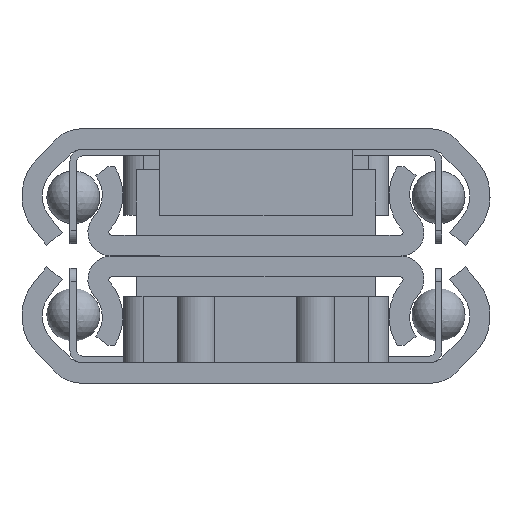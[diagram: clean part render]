
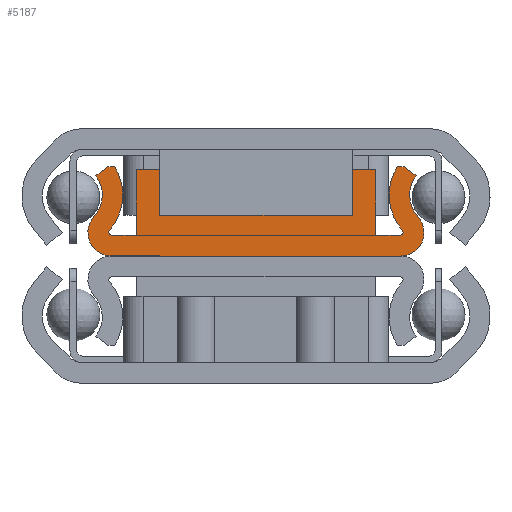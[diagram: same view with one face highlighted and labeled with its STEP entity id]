
A CAD part, left-side view. The second image highlights one B-rep face of the part: STEP entity #5187.
In plain terms, the highlighted planar face has unit normal (-1, 0, 0) as drawn and (0, 0, 1) by its records, which use the part's own axes.
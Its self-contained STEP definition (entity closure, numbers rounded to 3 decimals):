
#282=PLANE('',#5709);
#709=LINE('',#8580,#1189);
#718=LINE('',#8599,#1198);
#720=LINE('',#8603,#1200);
#722=LINE('',#8607,#1202);
#724=LINE('',#8611,#1204);
#726=LINE('',#8615,#1206);
#728=LINE('',#8618,#1208);
#729=LINE('',#8622,#1209);
#744=LINE('',#8678,#1224);
#747=LINE('',#8684,#1227);
#751=LINE('',#8700,#1231);
#754=LINE('',#8704,#1234);
#758=LINE('',#8721,#1238);
#761=LINE('',#8727,#1241);
#1189=VECTOR('',#7073,4.948);
#1198=VECTOR('',#7086,4.948);
#1200=VECTOR('',#7090,4.25);
#1202=VECTOR('',#7094,2.136);
#1204=VECTOR('',#7098,8.);
#1206=VECTOR('',#7102,2.136);
#1208=VECTOR('',#7106,4.25);
#1209=VECTOR('',#7109,21.757);
#1224=VECTOR('',#7166,1.129);
#1227=VECTOR('',#7171,0.515);
#1231=VECTOR('',#7189,1.869);
#1234=VECTOR('',#7192,1.869);
#1238=VECTOR('',#7210,0.515);
#1241=VECTOR('',#7215,1.129);
#1614=FACE_OUTER_BOUND('',#1992,.T.);
#1992=EDGE_LOOP('',(#4812,#4813,#4814,#4815,#4816,#4817,#4818,#4819,#4820,
#4821,#4822,#4823,#4824,#4825,#4826,#4827,#4828,#4829,#4830,#4831,#4832,
#4833));
#2209=CIRCLE('',#5682,1.772);
#2211=CIRCLE('',#5685,2.424);
#2213=CIRCLE('',#5690,3.976);
#2215=CIRCLE('',#5693,0.224);
#2217=CIRCLE('',#5697,0.224);
#2219=CIRCLE('',#5700,3.976);
#2221=CIRCLE('',#5705,2.424);
#2223=CIRCLE('',#5708,1.772);
#2663=VERTEX_POINT('',#8574);
#2665=VERTEX_POINT('',#8578);
#2672=VERTEX_POINT('',#8596);
#2673=VERTEX_POINT('',#8598);
#2674=VERTEX_POINT('',#8602);
#2675=VERTEX_POINT('',#8606);
#2676=VERTEX_POINT('',#8610);
#2677=VERTEX_POINT('',#8614);
#2678=VERTEX_POINT('',#8620);
#2679=VERTEX_POINT('',#8621);
#2695=VERTEX_POINT('',#8665);
#2697=VERTEX_POINT('',#8671);
#2699=VERTEX_POINT('',#8677);
#2701=VERTEX_POINT('',#8683);
#2703=VERTEX_POINT('',#8689);
#2705=VERTEX_POINT('',#8695);
#2706=VERTEX_POINT('',#8699);
#2709=VERTEX_POINT('',#8708);
#2711=VERTEX_POINT('',#8714);
#2713=VERTEX_POINT('',#8720);
#2715=VERTEX_POINT('',#8726);
#2717=VERTEX_POINT('',#8732);
#3349=EDGE_CURVE('',#2663,#2665,#709,.T.);
#3358=EDGE_CURVE('',#2673,#2672,#718,.T.);
#3360=EDGE_CURVE('',#2665,#2674,#720,.T.);
#3362=EDGE_CURVE('',#2674,#2675,#722,.T.);
#3364=EDGE_CURVE('',#2675,#2676,#724,.T.);
#3366=EDGE_CURVE('',#2676,#2677,#726,.T.);
#3368=EDGE_CURVE('',#2677,#2673,#728,.T.);
#3369=EDGE_CURVE('',#2678,#2679,#729,.T.);
#3390=EDGE_CURVE('',#2695,#2678,#2209,.T.);
#3393=EDGE_CURVE('',#2697,#2695,#2211,.T.);
#3396=EDGE_CURVE('',#2699,#2697,#744,.T.);
#3399=EDGE_CURVE('',#2701,#2699,#747,.T.);
#3402=EDGE_CURVE('',#2703,#2701,#2213,.T.);
#3405=EDGE_CURVE('',#2705,#2703,#2215,.T.);
#3407=EDGE_CURVE('',#2706,#2663,#751,.T.);
#3410=EDGE_CURVE('',#2672,#2705,#754,.T.);
#3412=EDGE_CURVE('',#2709,#2706,#2217,.T.);
#3415=EDGE_CURVE('',#2711,#2709,#2219,.T.);
#3418=EDGE_CURVE('',#2713,#2711,#758,.T.);
#3421=EDGE_CURVE('',#2715,#2713,#761,.T.);
#3424=EDGE_CURVE('',#2717,#2715,#2221,.T.);
#3427=EDGE_CURVE('',#2679,#2717,#2223,.T.);
#4812=ORIENTED_EDGE('',*,*,#3369,.T.);
#4813=ORIENTED_EDGE('',*,*,#3427,.T.);
#4814=ORIENTED_EDGE('',*,*,#3424,.T.);
#4815=ORIENTED_EDGE('',*,*,#3421,.T.);
#4816=ORIENTED_EDGE('',*,*,#3418,.T.);
#4817=ORIENTED_EDGE('',*,*,#3415,.T.);
#4818=ORIENTED_EDGE('',*,*,#3412,.T.);
#4819=ORIENTED_EDGE('',*,*,#3407,.T.);
#4820=ORIENTED_EDGE('',*,*,#3349,.T.);
#4821=ORIENTED_EDGE('',*,*,#3360,.T.);
#4822=ORIENTED_EDGE('',*,*,#3362,.T.);
#4823=ORIENTED_EDGE('',*,*,#3364,.T.);
#4824=ORIENTED_EDGE('',*,*,#3366,.T.);
#4825=ORIENTED_EDGE('',*,*,#3368,.T.);
#4826=ORIENTED_EDGE('',*,*,#3358,.T.);
#4827=ORIENTED_EDGE('',*,*,#3410,.T.);
#4828=ORIENTED_EDGE('',*,*,#3405,.T.);
#4829=ORIENTED_EDGE('',*,*,#3402,.T.);
#4830=ORIENTED_EDGE('',*,*,#3399,.T.);
#4831=ORIENTED_EDGE('',*,*,#3396,.T.);
#4832=ORIENTED_EDGE('',*,*,#3393,.T.);
#4833=ORIENTED_EDGE('',*,*,#3390,.T.);
#5187=ADVANCED_FACE('',(#1614),#282,.T.);
#5682=AXIS2_PLACEMENT_3D('',#8666,#7153,#7154);
#5685=AXIS2_PLACEMENT_3D('',#8672,#7160,#7161);
#5690=AXIS2_PLACEMENT_3D('',#8690,#7177,#7178);
#5693=AXIS2_PLACEMENT_3D('',#8696,#7184,#7185);
#5697=AXIS2_PLACEMENT_3D('',#8709,#7197,#7198);
#5700=AXIS2_PLACEMENT_3D('',#8715,#7204,#7205);
#5705=AXIS2_PLACEMENT_3D('',#8733,#7221,#7222);
#5708=AXIS2_PLACEMENT_3D('',#8737,#7228,#7229);
#5709=AXIS2_PLACEMENT_3D('',#8738,#7230,#7231);
#7073=DIRECTION('',(-1.,0.,0.));
#7086=DIRECTION('',(1.,0.,0.));
#7090=DIRECTION('',(0.,-1.,0.));
#7094=DIRECTION('',(0.936,-0.351,0.));
#7098=DIRECTION('',(0.,-1.,0.));
#7102=DIRECTION('',(-0.936,-0.351,0.));
#7106=DIRECTION('',(0.,-1.,0.));
#7109=DIRECTION('',(0.,1.,0.));
#7153=DIRECTION('center_axis',(0.,0.,1.));
#7154=DIRECTION('ref_axis',(-0.67,-0.743,0.));
#7160=DIRECTION('center_axis',(0.,0.,-1.));
#7161=DIRECTION('ref_axis',(-0.67,-0.743,0.));
#7166=DIRECTION('',(0.602,-0.799,0.));
#7171=DIRECTION('',(0.,-1.,0.));
#7177=DIRECTION('center_axis',(0.,0.,1.));
#7178=DIRECTION('ref_axis',(0.668,0.744,0.));
#7184=DIRECTION('center_axis',(0.,0.,-1.));
#7185=DIRECTION('ref_axis',(0.668,0.744,0.));
#7189=DIRECTION('',(0.,-1.,0.));
#7192=DIRECTION('',(0.,-1.,0.));
#7197=DIRECTION('center_axis',(0.,0.,-1.));
#7198=DIRECTION('ref_axis',(-1.,0.,0.));
#7204=DIRECTION('center_axis',(0.,0.,1.));
#7205=DIRECTION('ref_axis',(-0.538,-0.843,0.));
#7210=DIRECTION('',(0.,-1.,0.));
#7215=DIRECTION('',(-0.602,-0.799,0.));
#7221=DIRECTION('center_axis',(0.,0.,-1.));
#7222=DIRECTION('ref_axis',(0.602,0.799,0.));
#7228=DIRECTION('center_axis',(0.,0.,1.));
#7229=DIRECTION('ref_axis',(1.,0.,0.));
#7230=DIRECTION('center_axis',(0.,0.,1.));
#7231=DIRECTION('ref_axis',(1.,0.,0.));
#8574=CARTESIAN_POINT('',(-1.552,9.,430.));
#8578=CARTESIAN_POINT('',(-6.5,9.,430.));
#8580=CARTESIAN_POINT('',(0.,9.,430.));
#8596=CARTESIAN_POINT('',(-1.552,-9.,430.));
#8598=CARTESIAN_POINT('',(-6.5,-9.,430.));
#8599=CARTESIAN_POINT('',(-6.5,-9.,430.));
#8602=CARTESIAN_POINT('',(-6.5,4.75,430.));
#8603=CARTESIAN_POINT('',(-6.5,9.,430.));
#8606=CARTESIAN_POINT('',(-4.5,4.,430.));
#8607=CARTESIAN_POINT('',(-6.5,4.75,430.));
#8610=CARTESIAN_POINT('',(-4.5,-4.,430.));
#8611=CARTESIAN_POINT('',(-4.5,4.,430.));
#8614=CARTESIAN_POINT('',(-6.5,-4.75,430.));
#8615=CARTESIAN_POINT('',(-4.5,-4.,430.));
#8618=CARTESIAN_POINT('',(-6.5,-4.75,430.));
#8620=CARTESIAN_POINT('',(0.,-10.878,430.));
#8621=CARTESIAN_POINT('',(0.,10.878,430.));
#8622=CARTESIAN_POINT('',(0.,-10.878,430.));
#8665=CARTESIAN_POINT('',(-2.958,-12.194,430.));
#8666=CARTESIAN_POINT('Origin',(-1.772,-10.878,430.));
#8671=CARTESIAN_POINT('',(-6.04,-12.058,430.));
#8672=CARTESIAN_POINT('Origin',(-4.582,-13.994,430.));
#8677=CARTESIAN_POINT('',(-6.72,-11.157,430.));
#8678=CARTESIAN_POINT('',(-6.72,-11.157,430.));
#8683=CARTESIAN_POINT('',(-6.72,-10.642,430.));
#8684=CARTESIAN_POINT('',(-6.72,-10.642,430.));
#8689=CARTESIAN_POINT('',(-1.925,-11.036,430.));
#8690=CARTESIAN_POINT('Origin',(-4.582,-13.994,430.));
#8695=CARTESIAN_POINT('',(-1.552,-10.869,430.));
#8696=CARTESIAN_POINT('Origin',(-1.776,-10.869,430.));
#8699=CARTESIAN_POINT('',(-1.552,10.869,430.));
#8700=CARTESIAN_POINT('',(-1.552,10.869,430.));
#8704=CARTESIAN_POINT('',(-1.552,10.869,430.));
#8708=CARTESIAN_POINT('',(-1.925,11.036,430.));
#8709=CARTESIAN_POINT('Origin',(-1.776,10.869,430.));
#8714=CARTESIAN_POINT('',(-6.72,10.642,430.));
#8715=CARTESIAN_POINT('Origin',(-4.582,13.994,430.));
#8720=CARTESIAN_POINT('',(-6.72,11.157,430.));
#8721=CARTESIAN_POINT('',(-6.72,11.157,430.));
#8726=CARTESIAN_POINT('',(-6.04,12.058,430.));
#8727=CARTESIAN_POINT('',(-6.04,12.058,430.));
#8732=CARTESIAN_POINT('',(-2.958,12.194,430.));
#8733=CARTESIAN_POINT('Origin',(-4.582,13.994,430.));
#8737=CARTESIAN_POINT('Origin',(-1.772,10.878,430.));
#8738=CARTESIAN_POINT('Origin',(-1.796,0.,
430.));
